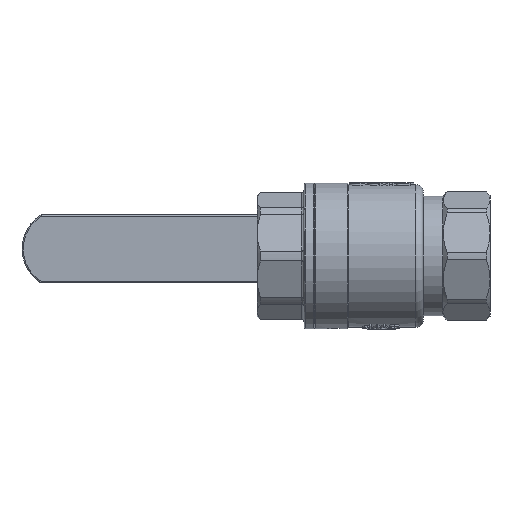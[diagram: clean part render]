
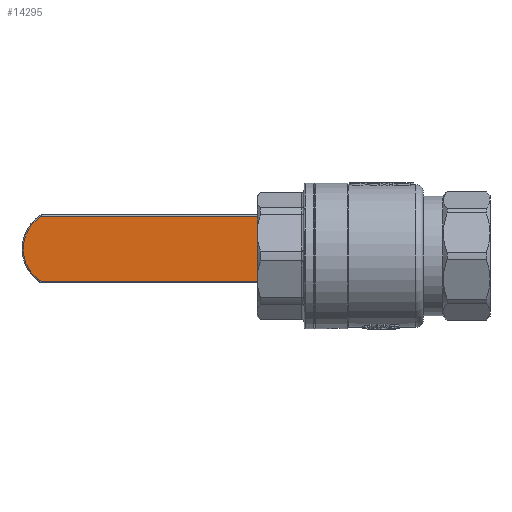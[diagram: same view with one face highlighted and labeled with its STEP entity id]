
A CAD part, front view. The second image highlights one B-rep face of the part: STEP entity #14295.
In plain terms, the highlighted planar face has unit normal (0, -1, 0).
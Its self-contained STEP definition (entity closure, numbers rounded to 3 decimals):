
#5930 = VERTEX_POINT ( 'NONE', #82363 ) ;
#10181 = DIRECTION ( 'NONE',  ( 0., 0., -1. ) ) ;
#14295 = ADVANCED_FACE ( 'NONE', ( #86858 ), #26754, .F. ) ;
#18730 = DIRECTION ( 'NONE',  ( 0., -1., 0. ) ) ;
#21297 = VECTOR ( 'NONE', #10181, 1000. ) ;
#25631 = ORIENTED_EDGE ( 'NONE', *, *, #121529, .T. ) ;
#26754 = PLANE ( 'NONE',  #33757 ) ;
#33757 = AXIS2_PLACEMENT_3D ( 'NONE', #39437, #77999, #59206 ) ;
#35723 = LINE ( 'NONE', #86288, #125360 ) ;
#39437 = CARTESIAN_POINT ( 'NONE',  ( 44.718, 22., 12.65 ) ) ;
#39985 = VECTOR ( 'NONE', #111810, 1000. ) ;
#41065 = EDGE_CURVE ( 'NONE', #5930, #97769, #35723, .T. ) ;
#43757 = EDGE_CURVE ( 'NONE', #65005, #5930, #87277, .T. ) ;
#49470 = DIRECTION ( 'NONE',  ( -1., 0., 0. ) ) ;
#57161 = VERTEX_POINT ( 'NONE', #99208 ) ;
#59206 = DIRECTION ( 'NONE',  ( 0., 0., 1. ) ) ;
#61247 = CARTESIAN_POINT ( 'NONE',  ( 133.205, 22., -13.15 ) ) ;
#63122 = CARTESIAN_POINT ( 'NONE',  ( 44.718, 22., -13.15 ) ) ;
#65005 = VERTEX_POINT ( 'NONE', #61247 ) ;
#68552 = EDGE_LOOP ( 'NONE', ( #93757, #93271, #25631, #124299 ) ) ;
#71513 = LINE ( 'NONE', #110124, #21297 ) ;
#77999 = DIRECTION ( 'NONE',  ( 0., 1., 0. ) ) ;
#78249 = CARTESIAN_POINT ( 'NONE',  ( 45.218, 22., 13.15 ) ) ;
#82363 = CARTESIAN_POINT ( 'NONE',  ( 133.205, 22., 13.15 ) ) ;
#86288 = CARTESIAN_POINT ( 'NONE',  ( 44.718, 22., 13.15 ) ) ;
#86858 = FACE_OUTER_BOUND ( 'NONE', #68552, .T. ) ;
#87277 = CIRCLE ( 'NONE', #120291, 15.5 ) ;
#93271 = ORIENTED_EDGE ( 'NONE', *, *, #102366, .T. ) ;
#93757 = ORIENTED_EDGE ( 'NONE', *, *, #41065, .T. ) ;
#97769 = VERTEX_POINT ( 'NONE', #78249 ) ;
#98045 = CARTESIAN_POINT ( 'NONE',  ( 125., 22., 0. ) ) ;
#99208 = CARTESIAN_POINT ( 'NONE',  ( 45.218, 22., -13.15 ) ) ;
#101100 = LINE ( 'NONE', #63122, #39985 ) ;
#102366 = EDGE_CURVE ( 'NONE', #97769, #57161, #71513, .T. ) ;
#110124 = CARTESIAN_POINT ( 'NONE',  ( 45.218, 22., 12.65 ) ) ;
#111810 = DIRECTION ( 'NONE',  ( 1., 0., 0. ) ) ;
#120291 = AXIS2_PLACEMENT_3D ( 'NONE', #98045, #18730, #128770 ) ;
#121529 = EDGE_CURVE ( 'NONE', #57161, #65005, #101100, .T. ) ;
#124299 = ORIENTED_EDGE ( 'NONE', *, *, #43757, .T. ) ;
#125360 = VECTOR ( 'NONE', #49470, 1000. ) ;
#128770 = DIRECTION ( 'NONE',  ( 0., 0., 1. ) ) ;
